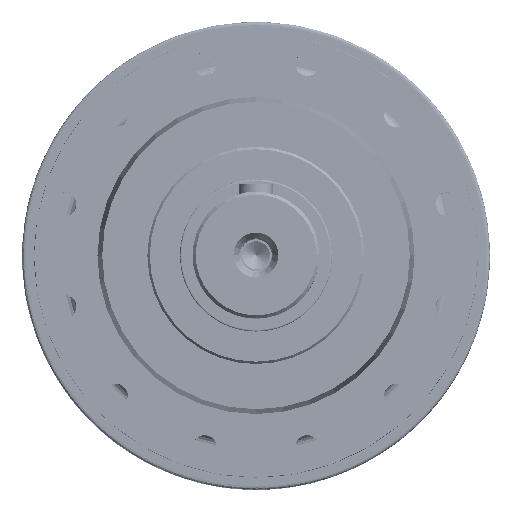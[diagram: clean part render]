
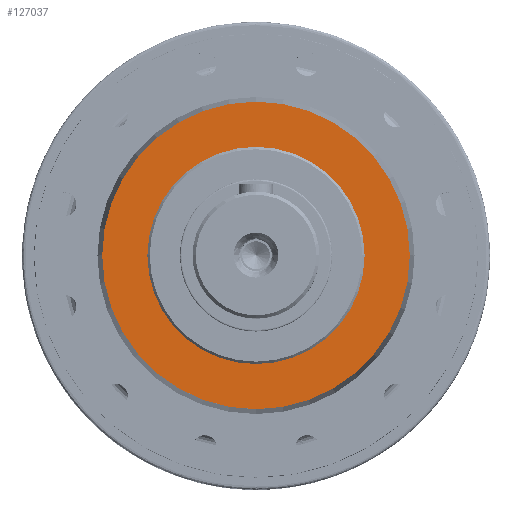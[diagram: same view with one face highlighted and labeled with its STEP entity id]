
A CAD part, top view. The second image highlights one B-rep face of the part: STEP entity #127037.
In plain terms, the highlighted planar face has unit normal (0, 0, 1).
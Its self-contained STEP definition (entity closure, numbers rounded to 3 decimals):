
#520 = AXIS2_PLACEMENT_3D ( 'NONE', #173704, #173731, #173742 ) ;
#28092 = CIRCLE ( 'NONE', #187816, 68.5 ) ;
#29001 = EDGE_LOOP ( 'NONE', ( #117223, #117246 ) ) ;
#29167 = EDGE_LOOP ( 'NONE', ( #117424, #117280 ) ) ;
#80232 = VERTEX_POINT ( 'NONE', #204986 ) ;
#80247 = VERTEX_POINT ( 'NONE', #205000 ) ;
#80280 = VERTEX_POINT ( 'NONE', #205207 ) ;
#80307 = VERTEX_POINT ( 'NONE', #205229 ) ;
#117223 = ORIENTED_EDGE ( 'NONE', *, *, #121660, .F. ) ;
#117246 = ORIENTED_EDGE ( 'NONE', *, *, #121723, .F. ) ;
#117280 = ORIENTED_EDGE ( 'NONE', *, *, #121678, .F. ) ;
#117424 = ORIENTED_EDGE ( 'NONE', *, *, #121759, .F. ) ;
#121660 = EDGE_CURVE ( 'NONE', #80307, #80247, #28092, .T. ) ;
#121678 = EDGE_CURVE ( 'NONE', #80280, #80232, #243629, .T. ) ;
#121723 = EDGE_CURVE ( 'NONE', #80247, #80307, #243814, .T. ) ;
#121759 = EDGE_CURVE ( 'NONE', #80232, #80280, #243640, .T. ) ;
#127037 = ADVANCED_FACE ( 'NONE', ( #172799, #172887 ), #173727, .F. ) ;
#166881 = CARTESIAN_POINT ( 'NONE',  ( 0., 0., 147. ) ) ;
#166887 = DIRECTION ( 'NONE',  ( 0., 0., 1. ) ) ;
#166890 = CARTESIAN_POINT ( 'NONE',  ( 0., 0., 147. ) ) ;
#166895 = DIRECTION ( 'NONE',  ( -1., 0., 0. ) ) ;
#166908 = DIRECTION ( 'NONE',  ( 0., 0., -1. ) ) ;
#166909 = DIRECTION ( 'NONE',  ( 0., 1., 0. ) ) ;
#166913 = DIRECTION ( 'NONE',  ( 0., 0., 1. ) ) ;
#166915 = CARTESIAN_POINT ( 'NONE',  ( 0., 0., 147. ) ) ;
#166939 = DIRECTION ( 'NONE',  ( -1., 0., 0. ) ) ;
#166986 = DIRECTION ( 'NONE',  ( 0., 1., 0. ) ) ;
#166995 = DIRECTION ( 'NONE',  ( 0., 0., -1. ) ) ;
#166997 = CARTESIAN_POINT ( 'NONE',  ( 0., 0., 147. ) ) ;
#172799 = FACE_BOUND ( 'NONE', #29001, .T. ) ;
#172887 = FACE_OUTER_BOUND ( 'NONE', #29167, .T. ) ;
#173704 = CARTESIAN_POINT ( 'NONE',  ( 0., 97., 147. ) ) ;
#173727 = PLANE ( 'NONE',  #520 ) ;
#173731 = DIRECTION ( 'NONE',  ( 0., 0., -1. ) ) ;
#173742 = DIRECTION ( 'NONE',  ( 0., 1., 0. ) ) ;
#187797 = AXIS2_PLACEMENT_3D ( 'NONE', #166915, #166913, #166939 ) ;
#187816 = AXIS2_PLACEMENT_3D ( 'NONE', #166890, #166887, #166895 ) ;
#187827 = AXIS2_PLACEMENT_3D ( 'NONE', #166881, #166908, #166909 ) ;
#187848 = AXIS2_PLACEMENT_3D ( 'NONE', #166997, #166995, #166986 ) ;
#204986 = CARTESIAN_POINT ( 'NONE',  ( 0., 97., 147. ) ) ;
#205000 = CARTESIAN_POINT ( 'NONE',  ( 68.5, 0., 147. ) ) ;
#205207 = CARTESIAN_POINT ( 'NONE',  ( 0., -97., 147. ) ) ;
#205229 = CARTESIAN_POINT ( 'NONE',  ( -68.5, 0., 147. ) ) ;
#243629 = CIRCLE ( 'NONE', #187827, 97. ) ;
#243640 = CIRCLE ( 'NONE', #187848, 97. ) ;
#243814 = CIRCLE ( 'NONE', #187797, 68.5 ) ;
